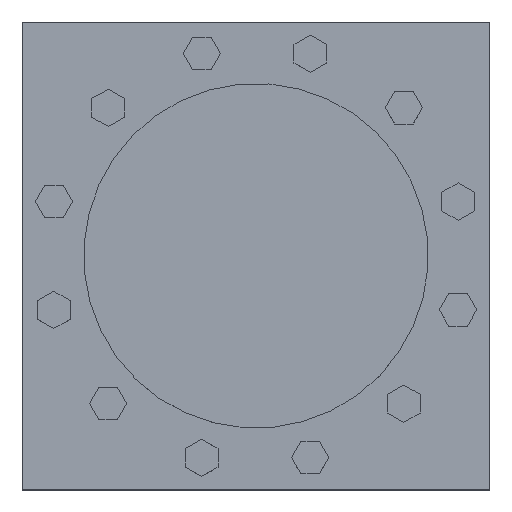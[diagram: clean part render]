
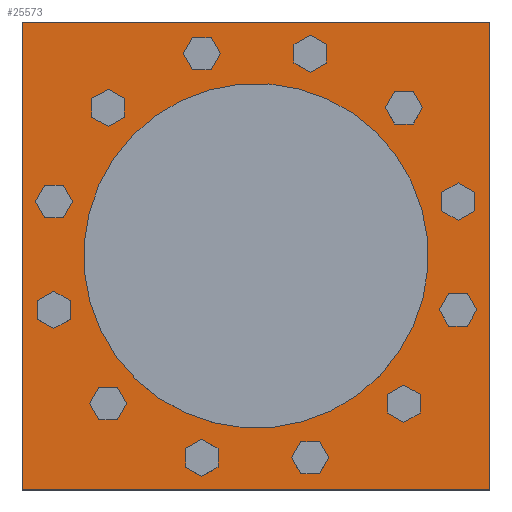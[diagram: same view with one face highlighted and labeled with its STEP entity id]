
A CAD part, top view. The second image highlights one B-rep face of the part: STEP entity #25573.
In plain terms, the highlighted planar face has unit normal (0, 0, 1).
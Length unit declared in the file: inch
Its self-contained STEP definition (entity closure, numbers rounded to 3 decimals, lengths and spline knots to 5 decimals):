
#1107=LINE('',#38671,#2240);
#1111=LINE('',#38678,#2244);
#1114=LINE('',#38684,#2247);
#1116=LINE('',#38687,#2249);
#2240=VECTOR('',#30826,19.);
#2244=VECTOR('',#30832,19.);
#2247=VECTOR('',#30837,19.);
#2249=VECTOR('',#30841,19.);
#3375=PLANE('',#27428);
#4087=FACE_BOUND('',#6676,.T.);
#4088=FACE_BOUND('',#6677,.T.);
#4089=FACE_BOUND('',#6678,.T.);
#4090=FACE_BOUND('',#6679,.T.);
#4091=FACE_BOUND('',#6680,.T.);
#4092=FACE_BOUND('',#6681,.T.);
#4093=FACE_BOUND('',#6682,.T.);
#4094=FACE_BOUND('',#6683,.T.);
#4095=FACE_BOUND('',#6684,.T.);
#4096=FACE_BOUND('',#6685,.T.);
#4097=FACE_BOUND('',#6686,.T.);
#4098=FACE_BOUND('',#6687,.T.);
#4915=FACE_OUTER_BOUND('',#6675,.T.);
#6675=EDGE_LOOP('',(#16501,#16502,#16503,#16504));
#6676=EDGE_LOOP('',(#16505));
#6677=EDGE_LOOP('',(#16506));
#6678=EDGE_LOOP('',(#16507));
#6679=EDGE_LOOP('',(#16508));
#6680=EDGE_LOOP('',(#16509));
#6681=EDGE_LOOP('',(#16510));
#6682=EDGE_LOOP('',(#16511));
#6683=EDGE_LOOP('',(#16512));
#6684=EDGE_LOOP('',(#16513));
#6685=EDGE_LOOP('',(#16514));
#6686=EDGE_LOOP('',(#16515));
#6687=EDGE_LOOP('',(#16516));
#9219=CIRCLE('',#27389,0.5);
#9221=CIRCLE('',#27392,0.5);
#9223=CIRCLE('',#27395,0.5);
#9225=CIRCLE('',#27398,0.5);
#9227=CIRCLE('',#27401,0.5);
#9229=CIRCLE('',#27404,0.5);
#9231=CIRCLE('',#27407,0.5);
#9233=CIRCLE('',#27410,0.5);
#9235=CIRCLE('',#27413,0.5);
#9237=CIRCLE('',#27416,0.5);
#9239=CIRCLE('',#27419,0.5);
#9241=CIRCLE('',#27422,0.5);
#10831=VERTEX_POINT('',#38605);
#10833=VERTEX_POINT('',#38610);
#10835=VERTEX_POINT('',#38615);
#10837=VERTEX_POINT('',#38620);
#10839=VERTEX_POINT('',#38625);
#10841=VERTEX_POINT('',#38630);
#10843=VERTEX_POINT('',#38635);
#10845=VERTEX_POINT('',#38640);
#10847=VERTEX_POINT('',#38645);
#10849=VERTEX_POINT('',#38650);
#10851=VERTEX_POINT('',#38655);
#10853=VERTEX_POINT('',#38660);
#10857=VERTEX_POINT('',#38668);
#10858=VERTEX_POINT('',#38670);
#10860=VERTEX_POINT('',#38676);
#10862=VERTEX_POINT('',#38682);
#13137=EDGE_CURVE('',#10831,#10831,#9219,.T.);
#13139=EDGE_CURVE('',#10833,#10833,#9221,.T.);
#13141=EDGE_CURVE('',#10835,#10835,#9223,.T.);
#13143=EDGE_CURVE('',#10837,#10837,#9225,.T.);
#13145=EDGE_CURVE('',#10839,#10839,#9227,.T.);
#13147=EDGE_CURVE('',#10841,#10841,#9229,.T.);
#13149=EDGE_CURVE('',#10843,#10843,#9231,.T.);
#13151=EDGE_CURVE('',#10845,#10845,#9233,.T.);
#13153=EDGE_CURVE('',#10847,#10847,#9235,.T.);
#13155=EDGE_CURVE('',#10849,#10849,#9237,.T.);
#13157=EDGE_CURVE('',#10851,#10851,#9239,.T.);
#13159=EDGE_CURVE('',#10853,#10853,#9241,.T.);
#13163=EDGE_CURVE('',#10857,#10858,#1107,.T.);
#13167=EDGE_CURVE('',#10860,#10857,#1111,.T.);
#13170=EDGE_CURVE('',#10862,#10860,#1114,.T.);
#13172=EDGE_CURVE('',#10858,#10862,#1116,.T.);
#16501=ORIENTED_EDGE('',*,*,#13172,.F.);
#16502=ORIENTED_EDGE('',*,*,#13163,.F.);
#16503=ORIENTED_EDGE('',*,*,#13167,.F.);
#16504=ORIENTED_EDGE('',*,*,#13170,.F.);
#16505=ORIENTED_EDGE('',*,*,#13137,.T.);
#16506=ORIENTED_EDGE('',*,*,#13139,.T.);
#16507=ORIENTED_EDGE('',*,*,#13141,.T.);
#16508=ORIENTED_EDGE('',*,*,#13143,.T.);
#16509=ORIENTED_EDGE('',*,*,#13145,.T.);
#16510=ORIENTED_EDGE('',*,*,#13147,.T.);
#16511=ORIENTED_EDGE('',*,*,#13149,.T.);
#16512=ORIENTED_EDGE('',*,*,#13151,.T.);
#16513=ORIENTED_EDGE('',*,*,#13153,.T.);
#16514=ORIENTED_EDGE('',*,*,#13155,.T.);
#16515=ORIENTED_EDGE('',*,*,#13157,.T.);
#16516=ORIENTED_EDGE('',*,*,#13159,.T.);
#25573=ADVANCED_FACE('',(#4915,#4087,#4088,#4089,#4090,#4091,#4092,#4093,
#4094,#4095,#4096,#4097,#4098),#3375,.F.);
#27389=AXIS2_PLACEMENT_3D('',#38606,#30752,#30753);
#27392=AXIS2_PLACEMENT_3D('',#38611,#30758,#30759);
#27395=AXIS2_PLACEMENT_3D('',#38616,#30764,#30765);
#27398=AXIS2_PLACEMENT_3D('',#38621,#30770,#30771);
#27401=AXIS2_PLACEMENT_3D('',#38626,#30776,#30777);
#27404=AXIS2_PLACEMENT_3D('',#38631,#30782,#30783);
#27407=AXIS2_PLACEMENT_3D('',#38636,#30788,#30789);
#27410=AXIS2_PLACEMENT_3D('',#38641,#30794,#30795);
#27413=AXIS2_PLACEMENT_3D('',#38646,#30800,#30801);
#27416=AXIS2_PLACEMENT_3D('',#38651,#30806,#30807);
#27419=AXIS2_PLACEMENT_3D('',#38656,#30812,#30813);
#27422=AXIS2_PLACEMENT_3D('',#38661,#30818,#30819);
#27428=AXIS2_PLACEMENT_3D('',#38688,#30842,#30843);
#30752=DIRECTION('center_axis',(0.,0.,
-1.));
#30753=DIRECTION('ref_axis',(0.866,0.5,0.));
#30758=DIRECTION('center_axis',(0.,0.,
-1.));
#30759=DIRECTION('ref_axis',(0.5,0.866,0.));
#30764=DIRECTION('center_axis',(0.,0.,
-1.));
#30765=DIRECTION('ref_axis',(0.,1.,0.));
#30770=DIRECTION('center_axis',(0.,0.,
-1.));
#30771=DIRECTION('ref_axis',(-0.5,0.866,0.));
#30776=DIRECTION('center_axis',(0.,0.,
-1.));
#30777=DIRECTION('ref_axis',(-0.866,0.5,0.));
#30782=DIRECTION('center_axis',(0.,0.,
-1.));
#30783=DIRECTION('ref_axis',(-1.,0.,0.));
#30788=DIRECTION('center_axis',(0.,0.,
-1.));
#30789=DIRECTION('ref_axis',(-0.866,-0.5,0.));
#30794=DIRECTION('center_axis',(0.,0.,
-1.));
#30795=DIRECTION('ref_axis',(-0.5,-0.866,0.));
#30800=DIRECTION('center_axis',(0.,0.,
-1.));
#30801=DIRECTION('ref_axis',(0.,-1.,0.));
#30806=DIRECTION('center_axis',(0.,0.,
-1.));
#30807=DIRECTION('ref_axis',(0.5,-0.866,0.));
#30812=DIRECTION('center_axis',(0.,0.,
-1.));
#30813=DIRECTION('ref_axis',(0.866,-0.5,0.));
#30818=DIRECTION('center_axis',(0.,0.,
-1.));
#30819=DIRECTION('ref_axis',(1.,0.,0.));
#30826=DIRECTION('',(0.,1.,0.));
#30832=DIRECTION('',(-1.,0.,0.));
#30837=DIRECTION('',(0.,-1.,0.));
#30841=DIRECTION('',(1.,0.,0.));
#30842=DIRECTION('center_axis',(0.,0.,
-1.));
#30843=DIRECTION('ref_axis',(1.,0.,0.));
#38605=CARTESIAN_POINT('',(5.57739,-6.26041,9.5));
#38606=CARTESIAN_POINT('Origin',(6.01041,-6.01041,9.5));
#38610=CARTESIAN_POINT('',(7.96037,-2.63297,9.5));
#38611=CARTESIAN_POINT('Origin',(8.21037,-2.19996,9.5));
#38615=CARTESIAN_POINT('',(8.21037,1.69996,9.5));
#38616=CARTESIAN_POINT('Origin',(8.21037,2.19996,9.5));
#38620=CARTESIAN_POINT('',(6.26041,5.57739,9.5));
#38621=CARTESIAN_POINT('Origin',(6.01041,6.01041,9.5));
#38625=CARTESIAN_POINT('',(2.63297,7.96037,9.5));
#38626=CARTESIAN_POINT('Origin',(2.19996,8.21037,9.5));
#38630=CARTESIAN_POINT('',(-1.69996,8.21037,9.5));
#38631=CARTESIAN_POINT('Origin',(-2.19996,8.21037,9.5));
#38635=CARTESIAN_POINT('',(-5.57739,6.26041,9.5));
#38636=CARTESIAN_POINT('Origin',(-6.01041,6.01041,9.5));
#38640=CARTESIAN_POINT('',(-7.96037,2.63297,9.5));
#38641=CARTESIAN_POINT('Origin',(-8.21037,2.19996,9.5));
#38645=CARTESIAN_POINT('',(-8.21037,-1.69996,9.5));
#38646=CARTESIAN_POINT('Origin',(-8.21037,-2.19996,9.5));
#38650=CARTESIAN_POINT('',(-6.26041,-5.57739,9.5));
#38651=CARTESIAN_POINT('Origin',(-6.01041,-6.01041,9.5));
#38655=CARTESIAN_POINT('',(-2.63297,-7.96037,9.5));
#38656=CARTESIAN_POINT('Origin',(-2.19996,-8.21037,9.5));
#38660=CARTESIAN_POINT('',(1.69996,-8.21037,9.5));
#38661=CARTESIAN_POINT('Origin',(2.19996,-8.21037,9.5));
#38668=CARTESIAN_POINT('',(-9.5,-9.5,9.5));
#38670=CARTESIAN_POINT('',(-9.5,9.5,9.5));
#38671=CARTESIAN_POINT('',(-9.5,-9.5,9.5));
#38676=CARTESIAN_POINT('',(9.5,-9.5,9.5));
#38678=CARTESIAN_POINT('',(9.5,-9.5,9.5));
#38682=CARTESIAN_POINT('',(9.5,9.5,9.5));
#38684=CARTESIAN_POINT('',(9.5,9.5,9.5));
#38687=CARTESIAN_POINT('',(-9.5,9.5,9.5));
#38688=CARTESIAN_POINT('Origin',(0.,0.,
9.5));
